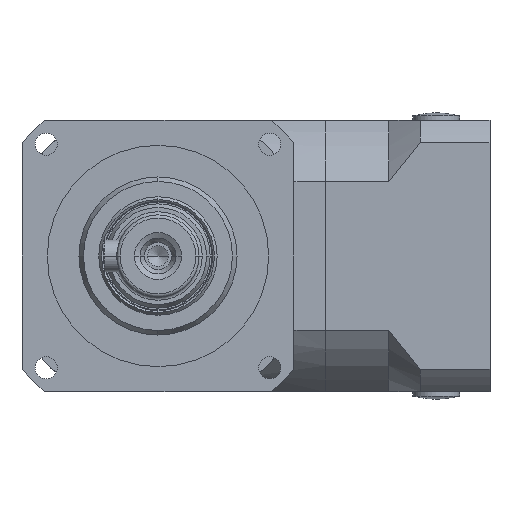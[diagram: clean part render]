
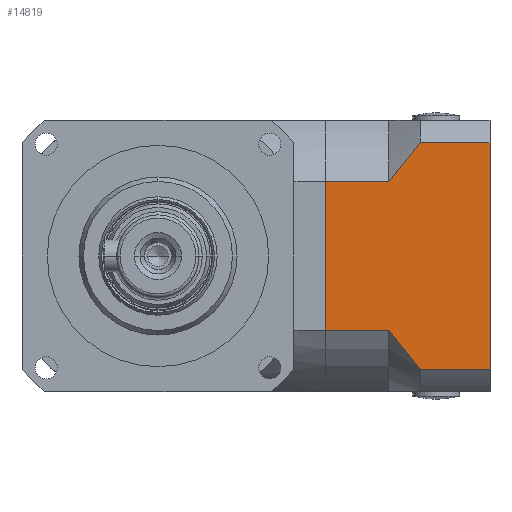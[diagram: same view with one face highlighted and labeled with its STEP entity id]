
A CAD part, left-side view. The second image highlights one B-rep face of the part: STEP entity #14819.
In plain terms, the highlighted planar face has unit normal (-1, 0, 0).
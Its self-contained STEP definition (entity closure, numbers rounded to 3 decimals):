
#106 = LINE ( 'NONE', #11132, #10094 ) ;
#516 = CARTESIAN_POINT ( 'NONE',  ( 9.5, -37.247, 12.838 ) ) ;
#519 = VERTEX_POINT ( 'NONE', #10303 ) ;
#565 = EDGE_CURVE ( 'NONE', #14766, #11152, #6645, .T. ) ;
#604 = CARTESIAN_POINT ( 'NONE',  ( 9.5, -26.5, 11.747 ) ) ;
#957 = ORIENTED_EDGE ( 'NONE', *, *, #565, .T. ) ;
#1003 = DIRECTION ( 'NONE',  ( 0., -1., 0. ) ) ;
#1590 = EDGE_LOOP ( 'NONE', ( #11744, #12328, #6049, #4139, #17215, #3007, #957, #3002 ) ) ;
#1916 = CARTESIAN_POINT ( 'NONE',  ( 9.5, -36.5, -11.747 ) ) ;
#2089 = CARTESIAN_POINT ( 'NONE',  ( 9.5, -52.5, 17.937 ) ) ;
#2560 = CARTESIAN_POINT ( 'NONE',  ( 9.5, -26.5, -21.5 ) ) ;
#2631 = PLANE ( 'NONE',  #5071 ) ;
#3002 = ORIENTED_EDGE ( 'NONE', *, *, #14799, .F. ) ;
#3007 = ORIENTED_EDGE ( 'NONE', *, *, #6554, .T. ) ;
#3224 = LINE ( 'NONE', #4250, #6842 ) ;
#3455 = VERTEX_POINT ( 'NONE', #16495 ) ;
#3816 = CARTESIAN_POINT ( 'NONE',  ( 9.5, -52.5, -17.937 ) ) ;
#3999 = DIRECTION ( 'NONE',  ( 1., 0., 0. ) ) ;
#4139 = ORIENTED_EDGE ( 'NONE', *, *, #5973, .F. ) ;
#4250 = CARTESIAN_POINT ( 'NONE',  ( 9.5, -26.5, -17.937 ) ) ;
#4834 = LINE ( 'NONE', #13165, #12043 ) ;
#4861 = VERTEX_POINT ( 'NONE', #3816 ) ;
#4918 = CARTESIAN_POINT ( 'NONE',  ( 9.5, -38.072, -13.904 ) ) ;
#5071 = AXIS2_PLACEMENT_3D ( 'NONE', #2560, #3999, #13476 ) ;
#5909 = CARTESIAN_POINT ( 'NONE',  ( 9.5, -41.5, 17.937 ) ) ;
#5973 = EDGE_CURVE ( 'NONE', #16862, #4861, #106, .T. ) ;
#6049 = ORIENTED_EDGE ( 'NONE', *, *, #8057, .F. ) ;
#6221 = EDGE_CURVE ( 'NONE', #7132, #519, #12213, .T. ) ;
#6285 = CARTESIAN_POINT ( 'NONE',  ( 9.5, -39.739, -15.968 ) ) ;
#6554 = EDGE_CURVE ( 'NONE', #3455, #14766, #11568, .T. ) ;
#6645 = LINE ( 'NONE', #14393, #16996 ) ;
#6816 = FACE_OUTER_BOUND ( 'NONE', #1590, .T. ) ;
#6842 = VECTOR ( 'NONE', #8291, 1000. ) ;
#7132 = VERTEX_POINT ( 'NONE', #1916 ) ;
#7664 = CARTESIAN_POINT ( 'NONE',  ( 9.5, -41.5, -17.937 ) ) ;
#7984 = DIRECTION ( 'NONE',  ( 0., 0., 1. ) ) ;
#8057 = EDGE_CURVE ( 'NONE', #4861, #519, #3224, .T. ) ;
#8291 = DIRECTION ( 'NONE',  ( 0., 1., 0. ) ) ;
#8656 = CARTESIAN_POINT ( 'NONE',  ( 9.5, -38.051, 13.896 ) ) ;
#8942 = CARTESIAN_POINT ( 'NONE',  ( 9.5, -36.5, -11.747 ) ) ;
#8980 = EDGE_CURVE ( 'NONE', #3455, #16862, #4834, .T. ) ;
#9654 = CARTESIAN_POINT ( 'NONE',  ( 9.5, -26.5, -11.747 ) ) ;
#9988 = VECTOR ( 'NONE', #7984, 1000. ) ;
#9999 = CARTESIAN_POINT ( 'NONE',  ( 9.5, -36.5, 11.747 ) ) ;
#10094 = VECTOR ( 'NONE', #15146, 1000. ) ;
#10303 = CARTESIAN_POINT ( 'NONE',  ( 9.5, -41.5, -17.937 ) ) ;
#10419 = LINE ( 'NONE', #16035, #9988 ) ;
#10533 = CARTESIAN_POINT ( 'NONE',  ( 9.5, -36.5, 11.747 ) ) ;
#11132 = CARTESIAN_POINT ( 'NONE',  ( 9.5, -52.5, 0. ) ) ;
#11152 = VERTEX_POINT ( 'NONE', #604 ) ;
#11568 = B_SPLINE_CURVE_WITH_KNOTS ( 'NONE', 3,
 ( #5909, #14042, #16711, #8656, #516, #9999 ),
 .UNSPECIFIED., .F., .F.,
 ( 4, 2, 4 ),
 ( 0.035, 0.039, 0.043 ),
 .UNSPECIFIED. ) ;
#11744 = ORIENTED_EDGE ( 'NONE', *, *, #15241, .T. ) ;
#11876 = DIRECTION ( 'NONE',  ( 0., -1., 0. ) ) ;
#12043 = VECTOR ( 'NONE', #11876, 1000. ) ;
#12213 = B_SPLINE_CURVE_WITH_KNOTS ( 'NONE', 3,
 ( #8942, #12972, #13039, #4918, #14408, #6285, #15729, #7664 ),
 .UNSPECIFIED., .F., .F.,
 ( 4, 2, 2, 4 ),
 ( 0.068, 0.07, 0.072, 0.076 ),
 .UNSPECIFIED. ) ;
#12328 = ORIENTED_EDGE ( 'NONE', *, *, #6221, .T. ) ;
#12783 = VECTOR ( 'NONE', #1003, 1000. ) ;
#12972 = CARTESIAN_POINT ( 'NONE',  ( 9.5, -36.877, -12.298 ) ) ;
#13039 = CARTESIAN_POINT ( 'NONE',  ( 9.5, -37.269, -12.841 ) ) ;
#13165 = CARTESIAN_POINT ( 'NONE',  ( 9.5, -26.5, 17.937 ) ) ;
#13476 = DIRECTION ( 'NONE',  ( 0., 0., -1. ) ) ;
#14042 = CARTESIAN_POINT ( 'NONE',  ( 9.5, -40.604, 16.958 ) ) ;
#14393 = CARTESIAN_POINT ( 'NONE',  ( 9.5, -26.5, 11.747 ) ) ;
#14408 = CARTESIAN_POINT ( 'NONE',  ( 9.5, -38.483, -14.426 ) ) ;
#14766 = VERTEX_POINT ( 'NONE', #10533 ) ;
#14799 = EDGE_CURVE ( 'NONE', #17183, #11152, #10419, .T. ) ;
#14819 = ADVANCED_FACE ( 'NONE', ( #6816 ), #2631, .F. ) ;
#15146 = DIRECTION ( 'NONE',  ( 0., 0., -1. ) ) ;
#15241 = EDGE_CURVE ( 'NONE', #17183, #7132, #17182, .T. ) ;
#15710 = DIRECTION ( 'NONE',  ( 0., 1., 0. ) ) ;
#15729 = CARTESIAN_POINT ( 'NONE',  ( 9.5, -40.609, -16.964 ) ) ;
#16035 = CARTESIAN_POINT ( 'NONE',  ( 9.5, -26.5, -21.5 ) ) ;
#16495 = CARTESIAN_POINT ( 'NONE',  ( 9.5, -41.5, 17.937 ) ) ;
#16711 = CARTESIAN_POINT ( 'NONE',  ( 9.5, -39.731, 15.958 ) ) ;
#16862 = VERTEX_POINT ( 'NONE', #2089 ) ;
#16996 = VECTOR ( 'NONE', #15710, 1000. ) ;
#17149 = CARTESIAN_POINT ( 'NONE',  ( 9.5, -26.5, -11.747 ) ) ;
#17182 = LINE ( 'NONE', #17149, #12783 ) ;
#17183 = VERTEX_POINT ( 'NONE', #9654 ) ;
#17215 = ORIENTED_EDGE ( 'NONE', *, *, #8980, .F. ) ;
